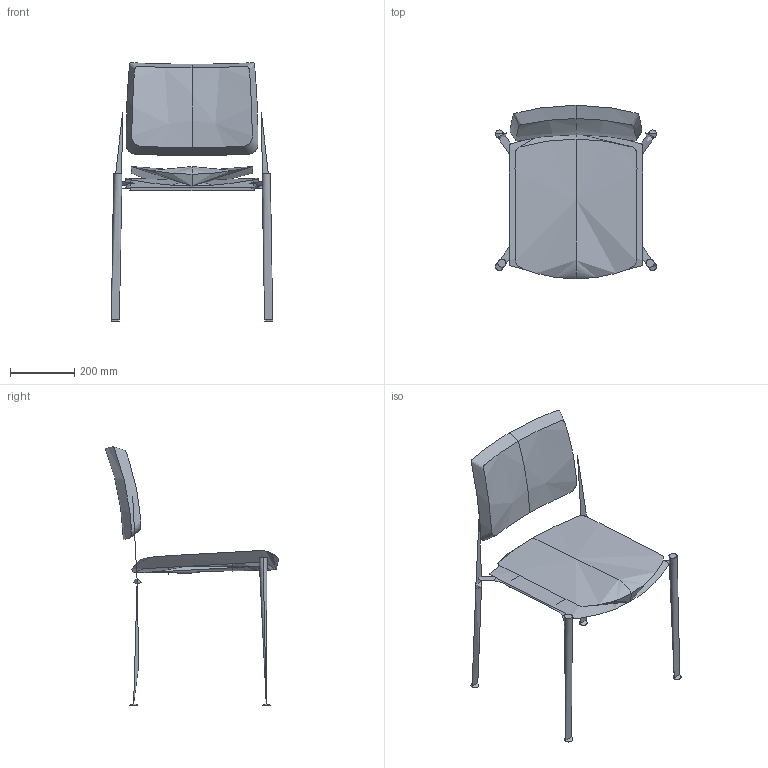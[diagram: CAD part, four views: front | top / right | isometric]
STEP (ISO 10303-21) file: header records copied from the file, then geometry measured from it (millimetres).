
FILE_DESCRIPTION(/* description */ (''),/* implementation_level */ '2;1');
FILE_NAME(/* name */ 'CONFER~2',/* time_stamp */ '2017-09-05T22:56:21+02:00',/* author */ (''),/* organization */ (''),/* preprocessor_version */ 'ST-DEVELOPER v15',/* originating_system */ '',/* authorisation */ '');
FILE_SCHEMA (('CONFIG_CONTROL_DESIGN'));
Length unit declared in the file: millimetre
Products named in the file (1): Document
Bounding box: 501 x 538.71 x 802.93 mm (x, y, z)
Volume: 4330904.8 mm3; surface area: 1023643.8 mm2
Topology: 1 solids, 15 shells, 66 faces, 137 edges, 80 vertices
Faces by surface type: bspline 58, plane 8
Entity records: 6453 total; most frequent: CARTESIAN_POINT 5591, ORIENTED_EDGE 232, EDGE_CURVE 134, VERTEX_POINT 80, ADVANCED_FACE 66, FACE_OUTER_BOUND 66, EDGE_LOOP 66, B_SPLINE_CURVE_WITH_KNOTS 42
